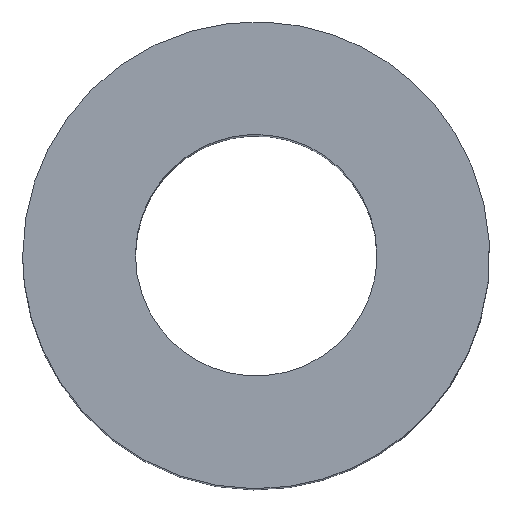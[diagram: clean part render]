
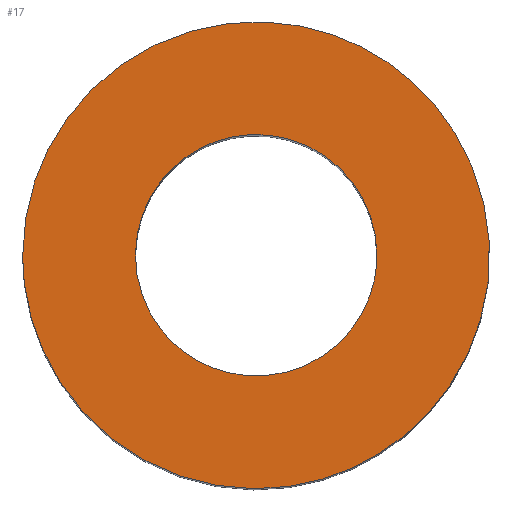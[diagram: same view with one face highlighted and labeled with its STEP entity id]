
A CAD part, top view. The second image highlights one B-rep face of the part: STEP entity #17.
In plain terms, the highlighted free-form (B-spline) face has degree [1, 1] with [2, 2] control points.
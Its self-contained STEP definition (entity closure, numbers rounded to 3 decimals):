
#17 = ADVANCED_FACE('',(#18,#32),#46,.F.);
#18 = FACE_BOUND('',#19,.T.);
#19 = EDGE_LOOP('',(#20));
#20 = ORIENTED_EDGE('',*,*,#21,.F.);
#21 = EDGE_CURVE('',#22,#22,#24,.T.);
#22 = VERTEX_POINT('',#23);
#23 = CARTESIAN_POINT('',(1.125,0.,7.));
#24 = ( BOUNDED_CURVE() B_SPLINE_CURVE(2,(#25,#26,#27,#28,#29,#30,#31),
.UNSPECIFIED.,.T.,.F.) B_SPLINE_CURVE_WITH_KNOTS((1,2,2,2,2,1),(
    -2.094,0.,2.094,4.189,6.283,
8.378),.UNSPECIFIED.) CURVE() GEOMETRIC_REPRESENTATION_ITEM() 
RATIONAL_B_SPLINE_CURVE((1.,0.5,1.,0.5,1.,0.5,1.)) REPRESENTATION_ITEM(
  '') );
#25 = CARTESIAN_POINT('',(1.125,0.,7.));
#26 = CARTESIAN_POINT('',(1.125,1.949,7.));
#27 = CARTESIAN_POINT('',(-0.563,0.974,7.));
#28 = CARTESIAN_POINT('',(-2.25,0.,7.));
#29 = CARTESIAN_POINT('',(-0.563,-0.974,7.));
#30 = CARTESIAN_POINT('',(1.125,-1.949,7.));
#31 = CARTESIAN_POINT('',(1.125,0.,7.));
#32 = FACE_BOUND('',#33,.T.);
#33 = EDGE_LOOP('',(#34));
#34 = ORIENTED_EDGE('',*,*,#35,.F.);
#35 = EDGE_CURVE('',#36,#36,#38,.T.);
#36 = VERTEX_POINT('',#37);
#37 = CARTESIAN_POINT('',(-2.175,0.,7.));
#38 = ( BOUNDED_CURVE() B_SPLINE_CURVE(2,(#39,#40,#41,#42,#43,#44,#45),
.UNSPECIFIED.,.T.,.F.) B_SPLINE_CURVE_WITH_KNOTS((1,2,2,2,2,1),(
    -2.094,0.,2.094,4.189,6.283,
8.378),.UNSPECIFIED.) CURVE() GEOMETRIC_REPRESENTATION_ITEM() 
RATIONAL_B_SPLINE_CURVE((1.,0.5,1.,0.5,1.,0.5,1.)) REPRESENTATION_ITEM(
  '') );
#39 = CARTESIAN_POINT('',(-2.175,0.,7.));
#40 = CARTESIAN_POINT('',(-2.175,3.767,7.));
#41 = CARTESIAN_POINT('',(1.088,1.884,7.));
#42 = CARTESIAN_POINT('',(4.35,0.,7.));
#43 = CARTESIAN_POINT('',(1.088,-1.884,7.));
#44 = CARTESIAN_POINT('',(-2.175,-3.767,7.));
#45 = CARTESIAN_POINT('',(-2.175,0.,7.));
#46 = B_SPLINE_SURFACE_WITH_KNOTS('',1,1,(
    (#47,#48)
    ,(#49,#50
    )),.UNSPECIFIED.,.F.,.F.,.F.,(2,2),(2,2),(-2.175,2.175),(-2.175,
    2.175),.PIECEWISE_BEZIER_KNOTS.);
#47 = CARTESIAN_POINT('',(2.175,-2.175,7.));
#48 = CARTESIAN_POINT('',(2.175,2.175,7.));
#49 = CARTESIAN_POINT('',(-2.175,-2.175,7.));
#50 = CARTESIAN_POINT('',(-2.175,2.175,7.));
